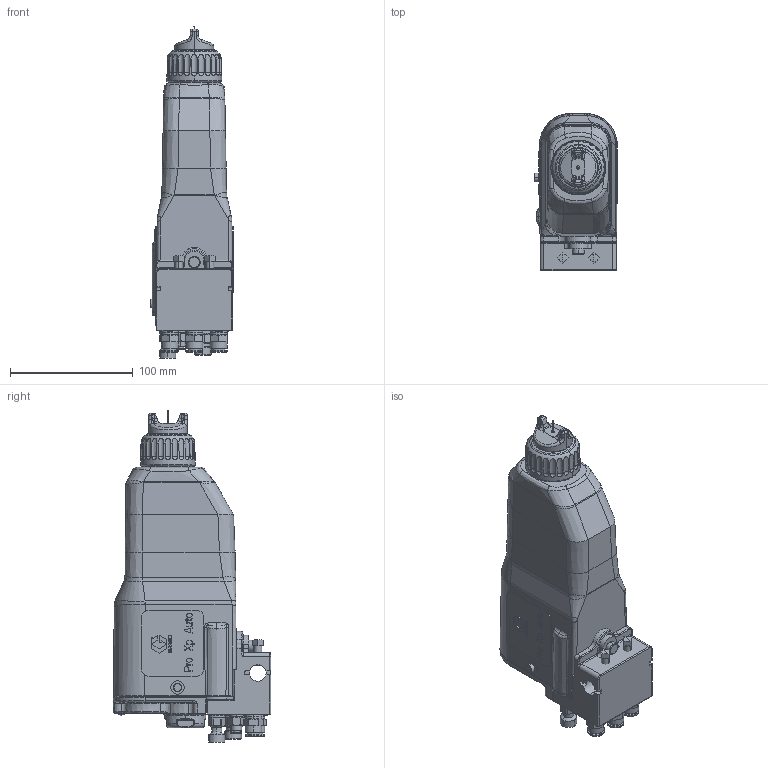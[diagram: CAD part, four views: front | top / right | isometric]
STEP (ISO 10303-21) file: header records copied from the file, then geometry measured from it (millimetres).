
FILE_DESCRIPTION((''),'2;1');
FILE_NAME('LA1T10-EN-K_PRT','2020-05-18T18:56:47',('qusrh3'),(''),'CREO PARAMETRIC BY PTC INC, 2019030','CREO PARAMETRIC BY PTC INC, 2019030','');
FILE_SCHEMA(('CONFIG_CONTROL_DESIGN'));
Products named in the file (1): LA1T10-EN-K_PRT
Bounding box: 67.94 x 127.91 x 270.08 mm (x, y, z)
Surface area: 104154.2 mm2 (no closed solid volume)
Topology: 0 solids, 90 shells, 1202 faces, 3615 edges, 2453 vertices
Faces by surface type: plane 574, bspline 220, cylinder 185, cone 85, torus 50, extrusion 46, sphere 42
Entity records: 56899 total; most frequent: CARTESIAN_POINT 27253, ORIENTED_EDGE 6033, DIRECTION 5425, EDGE_CURVE 3606, VERTEX_POINT 2453, VECTOR 2101, LINE 2055, AXIS2_PLACEMENT_3D 1662
